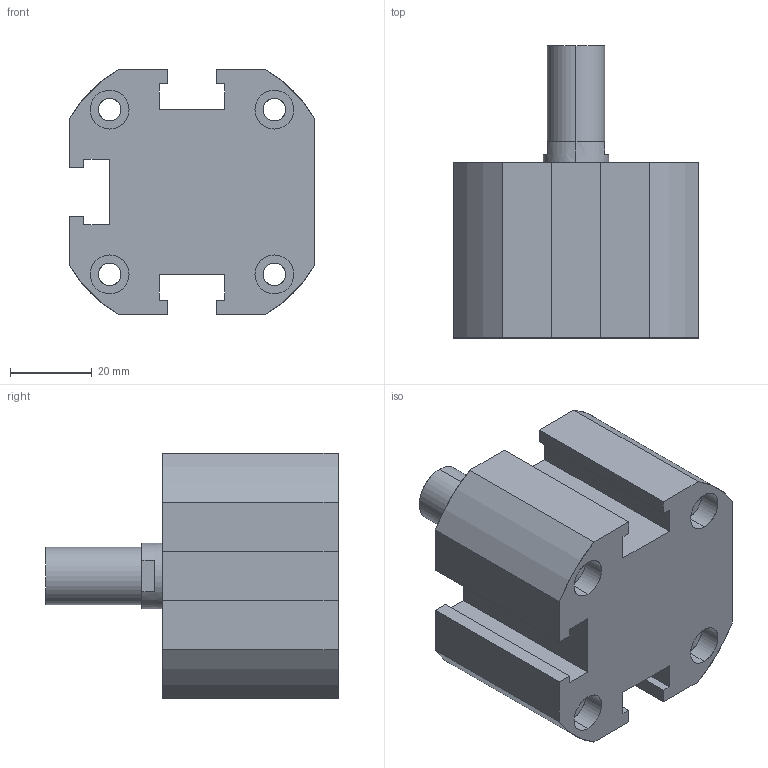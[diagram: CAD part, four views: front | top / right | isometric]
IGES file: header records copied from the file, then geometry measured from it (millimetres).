
Start section: SolidWorks IGES file using analytic representation for surfaces
Global section: file name: C:\Users\Toshiba\Desktop\XC#M0-40D-10.IGS; native system: SolidWorks 2014; preprocessor: SolidWorks 2014; author: Toshiba; date: 160523.163504; units: millimetre
Bounding box: 60 x 71.5 x 60 mm (x, y, z)
Surface area: 23962.1 mm2 (no closed solid volume)
Topology: 0 solids, 0 shells, 107 faces, 1924 edges, 1922 vertices
Faces by surface type: revolution 56, bspline 51
